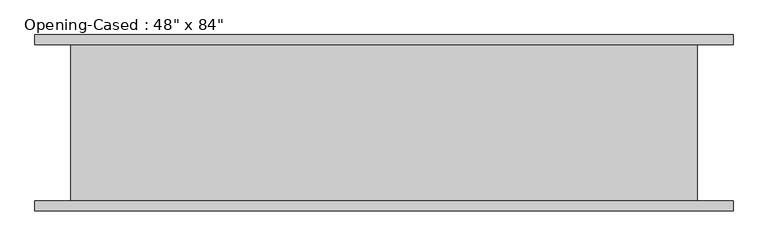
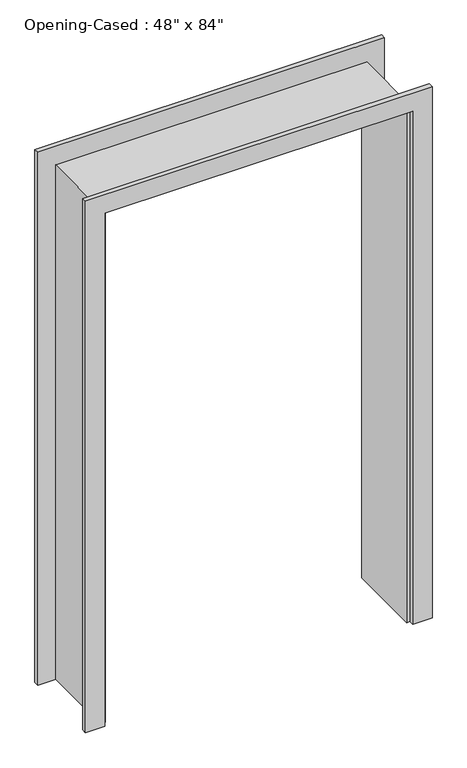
"""IFC4 building model written with IfcOpenShell, lengths in millimetres: proxy geometry."""

from ifc_helpers import new_model, si_unit, frame, origin, place, context, project, spatial, polyline, outline, extrude, faceted_brep, source, transform, mapped, element, save


def proxy_20ebd3de(model_context):
    return source(origin(), model_context, "Body", "SolidModel", [
        extrude(outline(polyline([(0.0, -611.4386567), (2127.25, -611.4386567), (2127.25, 595.0613433), (0.0, 595.0613433), (0.0, 671.2613433), (2203.45, 671.2613433), (2203.45, -687.6386567), (0.0, -687.6386567), (0.0, -611.4386567)])), frame((0.0, -171.45, 0.0), z_axis=(0.0, 1.0, 0.0), x_axis=(0.0, 0.0, 1.0)), (0.0, 0.0, 1.0), 19.05),
        extrude(outline(polyline([(0.0, 671.2613433), (2209.8, 671.2613433), (2209.8, -687.6386567), (0.0, -687.6386567), (0.0, -611.4386567), (2127.25, -611.4386567), (2127.25, 595.0613433), (0.0, 595.0613433), (0.0, 671.2613433)])), frame((0.0, 152.4, 0.0), z_axis=(0.0, 1.0, 0.0), x_axis=(0.0, 0.0, 1.0)), (0.0, 0.0, 1.0), 19.05),
        faceted_brep([(582.3613433, 152.4, 0.0), (601.4113433, 152.4, 0.0), (601.4113433, -152.4, 0.0), (582.3613433, -152.4, 0.0), (582.3613433, 152.4, 2114.55), (601.4113433, 152.4, 2133.6), (601.4113433, -152.4, 2133.6), (582.3613433, -152.4, 2114.55), (-598.7386567, 152.4, 2114.55), (-617.7886567, 152.4, 2133.6), (-617.7886567, -152.4, 2133.6), (-598.7386567, -152.4, 2114.55), (-598.7386567, 152.4, 0.0), (-598.7386567, -152.4, 0.0), (-617.7886567, -152.4, 0.0), (-617.7886567, 152.4, 0.0)], [[[0, 1, 2, 3]], [[1, 0, 4, 5]], [[2, 1, 5, 6]], [[3, 2, 6, 7]], [[0, 3, 7, 4]], [[5, 4, 8, 9]], [[6, 5, 9, 10]], [[7, 6, 10, 11]], [[4, 7, 11, 8]], [[12, 13, 14, 15]], [[9, 8, 12, 15]], [[10, 9, 15, 14]], [[11, 10, 14, 13]], [[8, 11, 13, 12]]]),
    ])


if __name__ == "__main__":
    model = new_model("IFC4")
    model_context = context("Model", 3, world=origin())
    ifc_project = project(units=[si_unit("LENGTHUNIT", "METRE", prefix="MILLI")], contexts=[model_context])
    site = spatial("IfcSite", under=ifc_project)
    building = spatial("IfcBuilding", under=site)
    placement = place(None, origin())
    proxy_shape = proxy_20ebd3de(model_context)
    element("IfcBuildingElementProxy", 1, Name="Opening-Cased : 48\" x 84\"", ObjectType="Opening-Cased : 48\" x 84\"", at=placement, inside=building, context=model_context, shape_type="MappedRepresentation", body=[
        mapped(proxy_shape, transform((0.0, 0.0, 0.0), x_axis=(1.0, 0.0, 0.0), y_axis=(0.0, 1.0, 0.0), z_axis=(0.0, 0.0, 1.0))),
    ])
    save(model, "model.ifc")
